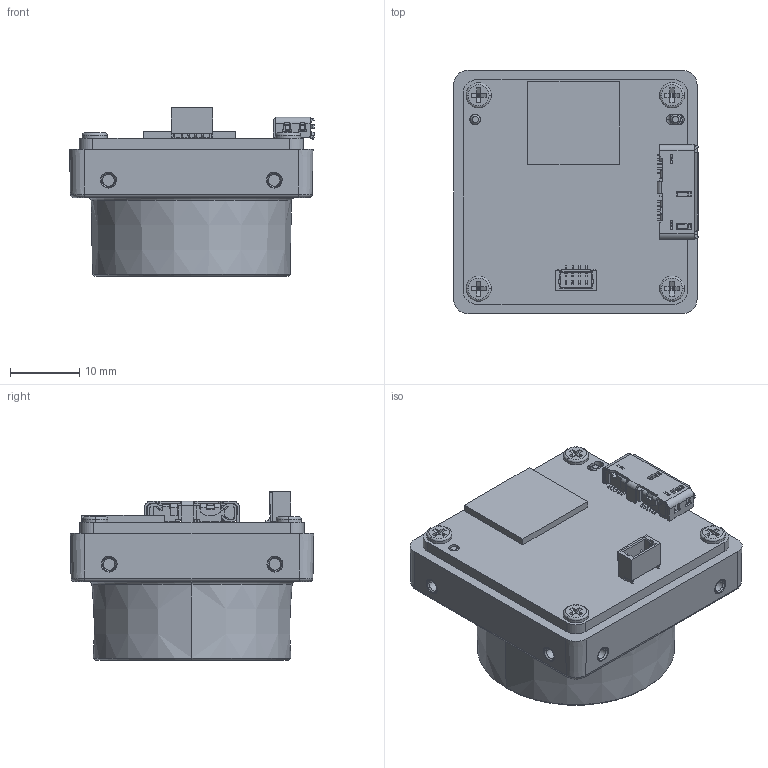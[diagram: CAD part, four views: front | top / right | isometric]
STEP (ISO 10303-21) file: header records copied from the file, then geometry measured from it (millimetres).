
FILE_DESCRIPTION((''),'2;1');
FILE_NAME('CB020-60UMC-C','2026-01-15T14:19:21',('pengxianzu'),(''),'CREO PARAMETRIC BY PTC INC, 2020044','CREO PARAMETRIC BY PTC INC, 2020044','');
FILE_SCHEMA(('CONFIG_CONTROL_DESIGN'));
Length unit declared in the file: millimetre
Products named in the file (1): CB020-60UMC-C
Bounding box: 35.44 x 35.24 x 24.43 mm (x, y, z)
Volume: 9967 mm3; surface area: 11861 mm2
Topology: 1 solids, 43 shells, 2007 faces, 5660 edges, 3624 vertices
Faces by surface type: plane 1142, cylinder 602, cone 136, torus 104, bspline 19, sphere 4
Entity records: 67475 total; most frequent: CARTESIAN_POINT 14553, ORIENTED_EDGE 11214, DIRECTION 10958, EDGE_CURVE 5660, VECTOR 3832, LINE 3832, VERTEX_POINT 3624, AXIS2_PLACEMENT_3D 3563
